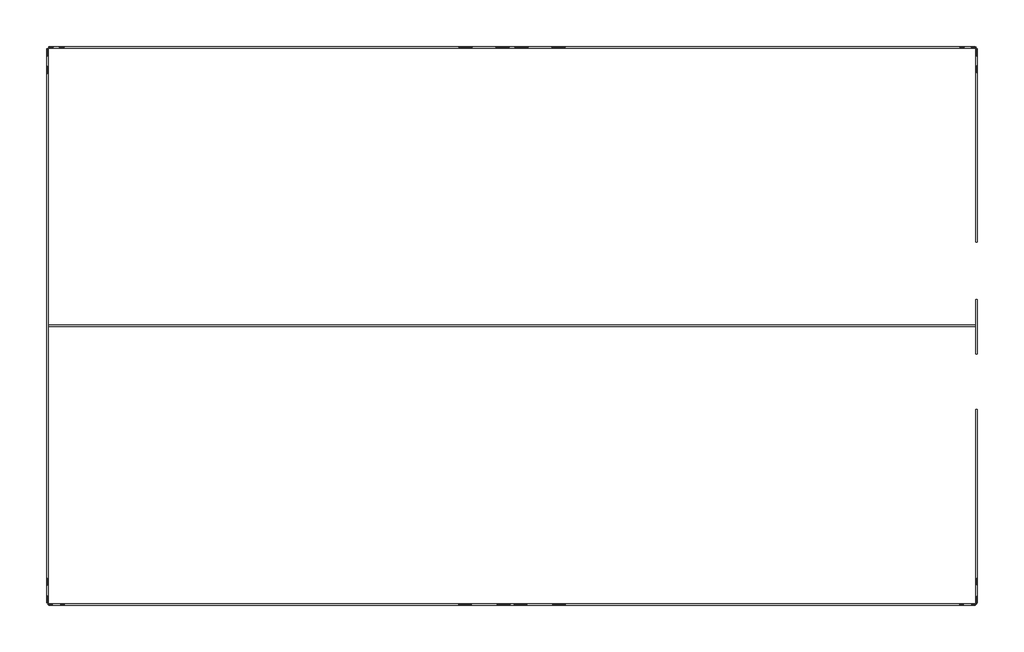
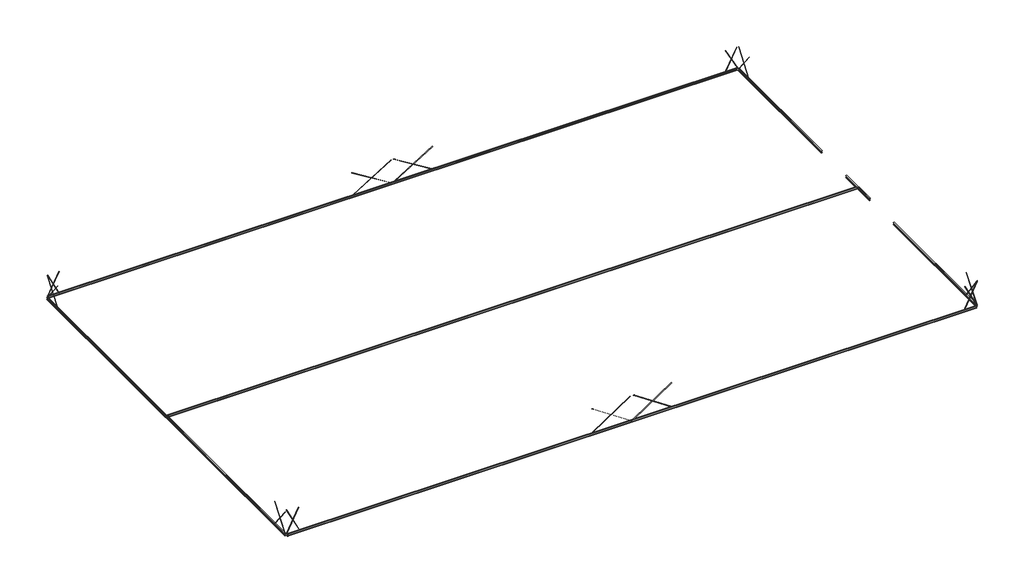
# One storey: 24 members, 7 beams.
"""IFC4 building model written with IfcOpenShell, lengths in millimetres."""

from ifc_helpers import new_model, si_unit, origin, place, context, project, spatial, transform, mapped, element, save
from components import ub_universal_beams_ub305x165x40_84cf911b, ub_universal_beams_ub305x165x40_7039ebc4, ub_universal_beams_ub305x165x40_08eb0503, ub_universal_beams_ub305x165x40_9586376d, ub_universal_beams_ub305x165x40_91c2d510, round_bars_rb_1_1_2_3e8e4eeb, round_bars_rb_1_1_2_b532fa77, round_bars_rb_1_1_2_7acd3910, round_bars_rb_1_1_2_7c4ca48d, round_bars_rb_1_1_2_46b0ee6e, round_bars_rb_1_1_2_e800a8af, round_bars_rb_1_1_2_284c45c0, round_bars_rb_1_1_2_24e4f47d, round_bars_rb_1_1_2_b3cfa4dc, round_bars_rb_1_1_2_4a88bb6f, round_bars_rb_1_1_2_4f811392, round_bars_rb_1_1_2_aa762c7a, round_bars_rb_1_1_2_8d5aa2d9, round_bars_rb_1_1_2_91e0801e

model = new_model("IFC4")

# Units and contexts
model_context = context("Model", 3, world=origin())
ifc_project = project(units=[si_unit("LENGTHUNIT", "METRE", prefix="MILLI")], contexts=[model_context])

# Site, building, storey
site = spatial("IfcSite", under=ifc_project)
building = spatial("IfcBuilding", under=site)
storey = spatial("IfcBuildingStorey", under=building, Name="Kota 3", Elevation=2000.0)

# Beams
placement = place(None, origin())
ub_universal_beams_ub305x165x40_shape = ub_universal_beams_ub305x165x40_84cf911b(model_context)
element("IfcBeam", 1, ObjectType="UB-Universal Beams : UB305x165x40", at=placement, inside=storey, context=model_context, shape_type="MappedRepresentation", body=[
    mapped(ub_universal_beams_ub305x165x40_shape, transform((41063.6750595, 7033.1828349, 2151.7), x_axis=(1.0, 0.0, 0.0), y_axis=(0.0, 1.0, 0.0), z_axis=(0.0, 0.0, 1.0))),
])
element("IfcBeam", 2, ObjectType="UB-Universal Beams : UB305x165x40", at=placement, inside=storey, context=model_context, shape_type="MappedRepresentation", body=[
    mapped(ub_universal_beams_ub305x165x40_shape, transform((41063.6750595, -52966.8171651, 2151.7), x_axis=(-1.0, 0.0, 0.0), y_axis=(0.0, -1.0, 0.0), z_axis=(0.0, 0.0, 1.0))),
])
element("IfcBeam", 3, ObjectType="UB-Universal Beams : UB305x165x40", at=placement, inside=storey, context=model_context, shape_type="MappedRepresentation", body=[
    mapped(ub_universal_beams_ub305x165x40_shape, transform((41063.6750595, -22966.8171651, 2151.7), x_axis=(1.0, 0.0, 0.0), y_axis=(0.0, 1.0, 0.0), z_axis=(0.0, 0.0, 1.0))),
])
ub_universal_beams_ub305x165x40_2_shape = ub_universal_beams_ub305x165x40_7039ebc4(model_context)
element("IfcBeam", 4, ObjectType="UB-Universal Beams : UB305x165x40", at=placement, inside=storey, context=model_context, shape_type="MappedRepresentation", body=[
    mapped(ub_universal_beams_ub305x165x40_2_shape, transform((-8936.3249405, -22966.8171651, 2151.7), x_axis=(0.0, 1.0, 0.0), y_axis=(-1.0, 0.0, 0.0), z_axis=(0.0, 0.0, 1.0))),
])
ub_universal_beams_ub305x165x40_3_shape = ub_universal_beams_ub305x165x40_08eb0503(model_context)
element("IfcBeam", 5, ObjectType="UB-Universal Beams : UB305x165x40", at=placement, inside=storey, context=model_context, shape_type="MappedRepresentation", body=[
    mapped(ub_universal_beams_ub305x165x40_3_shape, transform((91063.6750595, -40929.5216667, 2151.7), x_axis=(0.0, -1.0, 0.0), y_axis=(1.0, 0.0, 0.0), z_axis=(0.0, 0.0, 1.0))),
])
ub_universal_beams_ub305x165x40_4_shape = ub_universal_beams_ub305x165x40_9586376d(model_context)
element("IfcBeam", 6, ObjectType="UB-Universal Beams : UB305x165x40", at=placement, inside=storey, context=model_context, shape_type="MappedRepresentation", body=[
    mapped(ub_universal_beams_ub305x165x40_4_shape, transform((91063.6750595, -23037.6509442, 2151.7), x_axis=(0.0, -1.0, 0.0), y_axis=(1.0, 0.0, 0.0), z_axis=(0.0, 0.0, 1.0))),
])
ub_universal_beams_ub305x165x40_5_shape = ub_universal_beams_ub305x165x40_91c2d510(model_context)
element("IfcBeam", 7, ObjectType="UB-Universal Beams : UB305x165x40", at=placement, inside=storey, context=model_context, shape_type="MappedRepresentation", body=[
    mapped(ub_universal_beams_ub305x165x40_5_shape, transform((91063.6750595, -5074.9464426, 2151.7), x_axis=(0.0, -1.0, 0.0), y_axis=(1.0, 0.0, 0.0), z_axis=(0.0, 0.0, 1.0))),
])

# Members
round_bars_rb_1_1_2_shape = round_bars_rb_1_1_2_3e8e4eeb(model_context)
element("IfcMember", 8, ObjectType="Round Bars : RB 1 1/2", at=placement, inside=storey, context=model_context, shape_type="MappedRepresentation", body=[
    mapped(round_bars_rb_1_1_2_shape, transform((-8936.3249405, 5533.1828349, 3919.9124483), x_axis=(0.0, -0.6156614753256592, 0.7880107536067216), y_axis=(1.0000000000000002, 0.0, 0.0), z_axis=(0.0, 0.7880107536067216, 0.6156614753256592))),
])
element("IfcMember", 9, ObjectType="Round Bars : RB 1 1/2", at=placement, inside=storey, context=model_context, shape_type="MappedRepresentation", body=[
    mapped(round_bars_rb_1_1_2_shape, transform((-8936.3249405, -51466.8171651, 3919.9124483), x_axis=(0.0, -0.6156614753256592, 0.7880107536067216), y_axis=(1.0000000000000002, 0.0, 0.0), z_axis=(0.0, 0.7880107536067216, 0.6156614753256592))),
])
round_bars_rb_1_1_2_2_shape = round_bars_rb_1_1_2_b532fa77(model_context)
element("IfcMember", 10, ObjectType="Round Bars : RB 1 1/2", at=placement, inside=storey, context=model_context, shape_type="MappedRepresentation", body=[
    mapped(round_bars_rb_1_1_2_2_shape, transform((-8936.3249405, 5533.1828349, 3924.15), x_axis=(0.0, 0.6148184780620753, 0.7886686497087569), y_axis=(-1.0000000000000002, 0.0, 0.0), z_axis=(0.0, -0.7886686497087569, 0.6148184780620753))),
])
element("IfcMember", 11, ObjectType="Round Bars : RB 1 1/2", at=placement, inside=storey, context=model_context, shape_type="MappedRepresentation", body=[
    mapped(round_bars_rb_1_1_2_2_shape, transform((-8936.3249405, -51466.8171651, 3924.15), x_axis=(0.0, 0.6148184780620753, 0.7886686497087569), y_axis=(-1.0000000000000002, 0.0, 0.0), z_axis=(0.0, -0.7886686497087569, 0.6148184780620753))),
])
element("IfcMember", 12, ObjectType="Round Bars : RB 1 1/2", at=placement, inside=storey, context=model_context, shape_type="MappedRepresentation", body=[
    mapped(round_bars_rb_1_1_2_2_shape, transform((91063.6750595, 5533.1828349, 3924.15), x_axis=(0.0, -0.6148184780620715, 0.7886686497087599), y_axis=(1.0000000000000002, 0.0, 0.0), z_axis=(0.0, 0.7886686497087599, 0.6148184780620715))),
])
round_bars_rb_1_1_2_3_shape = round_bars_rb_1_1_2_7acd3910(model_context)
element("IfcMember", 13, ObjectType="Round Bars : RB 1 1/2", at=placement, inside=storey, context=model_context, shape_type="MappedRepresentation", body=[
    mapped(round_bars_rb_1_1_2_3_shape, transform((91063.6750595, 5533.1828349, 3844.0624483), x_axis=(0.0, 0.6008144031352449, 0.7993885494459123), y_axis=(-1.0000000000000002, 0.0, 0.0), z_axis=(0.0, -0.7993885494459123, 0.6008144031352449))),
])
round_bars_rb_1_1_2_4_shape = round_bars_rb_1_1_2_7c4ca48d(model_context)
element("IfcMember", 14, ObjectType="Round Bars : RB 1 1/2", at=placement, inside=storey, context=model_context, shape_type="MappedRepresentation", body=[
    mapped(round_bars_rb_1_1_2_4_shape, transform((-7936.3249405, 7033.1828349, 3848.3), x_axis=(-0.44721359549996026, 0.0, 0.894427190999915), y_axis=(0.0, -1.0000000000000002, 0.0), z_axis=(0.894427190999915, 0.0, 0.44721359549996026))),
])
round_bars_rb_1_1_2_5_shape = round_bars_rb_1_1_2_46b0ee6e(model_context)
element("IfcMember", 15, ObjectType="Round Bars : RB 1 1/2", at=placement, inside=storey, context=model_context, shape_type="MappedRepresentation", body=[
    mapped(round_bars_rb_1_1_2_5_shape, transform((90063.6750595, 7033.1828349, 3924.15), x_axis=(0.46115017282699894, 0.0, 0.8873221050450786), y_axis=(0.0, 1.0000000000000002, 0.0), z_axis=(-0.8873221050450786, 0.0, 0.46115017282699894))),
])
element("IfcMember", 16, ObjectType="Round Bars : RB 1 1/2", at=placement, inside=storey, context=model_context, shape_type="MappedRepresentation", body=[
    mapped(round_bars_rb_1_1_2_5_shape, transform((-7936.3249405, 7033.1828349, 3924.15), x_axis=(0.46115017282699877, 0.0, 0.8873221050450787), y_axis=(0.0, 1.0000000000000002, 0.0), z_axis=(-0.8873221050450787, 0.0, 0.46115017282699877))),
])
round_bars_rb_1_1_2_6_shape = round_bars_rb_1_1_2_e800a8af(model_context)
element("IfcMember", 17, ObjectType="Round Bars : RB 1 1/2", at=placement, inside=storey, context=model_context, shape_type="MappedRepresentation", body=[
    mapped(round_bars_rb_1_1_2_6_shape, transform((91063.6750595, -51466.8171651, 3995.7624483), x_axis=(0.0, 0.6310231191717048, 0.7757640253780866), y_axis=(-1.0, 0.0, 0.0), z_axis=(0.0, -0.7757640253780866, 0.6310231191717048))),
])
round_bars_rb_1_1_2_7_shape = round_bars_rb_1_1_2_284c45c0(model_context)
element("IfcMember", 18, ObjectType="Round Bars : RB 1 1/2", at=placement, inside=storey, context=model_context, shape_type="MappedRepresentation", body=[
    mapped(round_bars_rb_1_1_2_7_shape, transform((90063.6750595, 7033.1828349, 4000.0), x_axis=(-0.4758553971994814, 0.0, 0.8795235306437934), y_axis=(0.0, -1.0, 0.0), z_axis=(0.8795235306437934, 0.0, 0.4758553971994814))),
])
round_bars_rb_1_1_2_8_shape = round_bars_rb_1_1_2_24e4f47d(model_context)
element("IfcMember", 19, ObjectType="Round Bars : RB 1 1/2", at=placement, inside=storey, context=model_context, shape_type="MappedRepresentation", body=[
    mapped(round_bars_rb_1_1_2_8_shape, transform((44063.6750595, 7033.1828349, 3984.8031015), x_axis=(0.8533109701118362, 0.0, 0.5214023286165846), y_axis=(0.0, 1.0, 0.0), z_axis=(-0.5214023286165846, 0.0, 0.8533109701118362))),
])
round_bars_rb_1_1_2_9_shape = round_bars_rb_1_1_2_b3cfa4dc(model_context)
element("IfcMember", 20, ObjectType="Round Bars : RB 1 1/2", at=placement, inside=storey, context=model_context, shape_type="MappedRepresentation", body=[
    mapped(round_bars_rb_1_1_2_9_shape, transform((44063.6750595, 7033.1828349, 4000.0), x_axis=(-0.8513863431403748, 0.0, 0.5245391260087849), y_axis=(0.0, -1.0, 0.0), z_axis=(0.5245391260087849, 0.0, 0.8513863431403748))),
])
element("IfcMember", 21, ObjectType="Round Bars : RB 1 1/2", at=placement, inside=storey, context=model_context, shape_type="MappedRepresentation", body=[
    mapped(round_bars_rb_1_1_2_9_shape, transform((38063.6750595, 7033.1828349, 4000.0), x_axis=(-0.8513863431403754, 0.0, 0.5245391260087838), y_axis=(0.0, -1.0, 0.0), z_axis=(0.5245391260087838, 0.0, 0.8513863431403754))),
])
element("IfcMember", 22, ObjectType="Round Bars : RB 1 1/2", at=placement, inside=storey, context=model_context, shape_type="MappedRepresentation", body=[
    mapped(round_bars_rb_1_1_2_9_shape, transform((38063.6750595, 7033.1828349, 4000.0), x_axis=(0.8513863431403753, 0.0, 0.524539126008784), y_axis=(0.0, 1.0, 0.0), z_axis=(-0.524539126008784, 0.0, 0.8513863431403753))),
])
round_bars_rb_1_1_2_10_shape = round_bars_rb_1_1_2_4a88bb6f(model_context)
element("IfcMember", 23, ObjectType="Round Bars : RB 1 1/2", at=placement, inside=storey, context=model_context, shape_type="MappedRepresentation", body=[
    mapped(round_bars_rb_1_1_2_10_shape, transform((91063.6750595, -51466.8171651, 4075.85), x_axis=(0.0, -0.5856894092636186, 0.8105355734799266), y_axis=(1.0, 0.0, 0.0), z_axis=(0.0, 0.8105355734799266, 0.5856894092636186))),
])
round_bars_rb_1_1_2_11_shape = round_bars_rb_1_1_2_4f811392(model_context)
element("IfcMember", 24, ObjectType="Round Bars : RB 1 1/2", at=placement, inside=storey, context=model_context, shape_type="MappedRepresentation", body=[
    mapped(round_bars_rb_1_1_2_11_shape, transform((-7936.3249405, -52966.8171651, 4151.7), x_axis=(0.44721359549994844, 0.0, 0.8944271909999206), y_axis=(0.0, 1.0, 0.0), z_axis=(-0.8944271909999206, 0.0, 0.44721359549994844))),
])
element("IfcMember", 25, ObjectType="Round Bars : RB 1 1/2", at=placement, inside=storey, context=model_context, shape_type="MappedRepresentation", body=[
    mapped(round_bars_rb_1_1_2_11_shape, transform((90063.6750595, -52966.8171651, 4151.7), x_axis=(-0.4472135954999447, 0.0, 0.8944271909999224), y_axis=(0.0, -1.0, 0.0), z_axis=(0.8944271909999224, 0.0, 0.4472135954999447))),
])
round_bars_rb_1_1_2_12_shape = round_bars_rb_1_1_2_aa762c7a(model_context)
element("IfcMember", 26, ObjectType="Round Bars : RB 1 1/2", at=placement, inside=storey, context=model_context, shape_type="MappedRepresentation", body=[
    mapped(round_bars_rb_1_1_2_12_shape, transform((-7936.3249405, -52966.8171651, 4151.7), x_axis=(-0.447213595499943, 0.0, 0.8944271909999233), y_axis=(0.0, -1.0, 0.0), z_axis=(0.8944271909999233, 0.0, 0.447213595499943))),
])
element("IfcMember", 27, ObjectType="Round Bars : RB 1 1/2", at=placement, inside=storey, context=model_context, shape_type="MappedRepresentation", body=[
    mapped(round_bars_rb_1_1_2_12_shape, transform((90063.6750595, -52966.8171651, 4151.7), x_axis=(0.44721359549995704, 0.0, 0.8944271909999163), y_axis=(0.0, 1.0, 0.0), z_axis=(-0.8944271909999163, 0.0, 0.44721359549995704))),
])
round_bars_rb_1_1_2_13_shape = round_bars_rb_1_1_2_8d5aa2d9(model_context)
element("IfcMember", 28, ObjectType="Round Bars : RB 1 1/2", at=placement, inside=storey, context=model_context, shape_type="MappedRepresentation", body=[
    mapped(round_bars_rb_1_1_2_13_shape, transform((38063.6750595, -52966.8171651, 4151.7), x_axis=(0.8320502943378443, 0.0, 0.5547001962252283), y_axis=(0.0, 1.0, 0.0), z_axis=(-0.5547001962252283, 0.0, 0.8320502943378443))),
])
element("IfcMember", 29, ObjectType="Round Bars : RB 1 1/2", at=placement, inside=storey, context=model_context, shape_type="MappedRepresentation", body=[
    mapped(round_bars_rb_1_1_2_13_shape, transform((44063.6750595, -52966.8171651, 4151.7), x_axis=(0.8320502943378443, 0.0, 0.5547001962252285), y_axis=(0.0, 1.0, 0.0), z_axis=(-0.5547001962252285, 0.0, 0.8320502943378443))),
])
element("IfcMember", 30, ObjectType="Round Bars : RB 1 1/2", at=placement, inside=storey, context=model_context, shape_type="MappedRepresentation", body=[
    mapped(round_bars_rb_1_1_2_13_shape, transform((44063.6750595, -52966.8171651, 4151.7), x_axis=(-0.8320502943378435, 0.0, 0.5547001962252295), y_axis=(0.0, -1.0, 0.0), z_axis=(0.5547001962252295, 0.0, 0.8320502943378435))),
])
round_bars_rb_1_1_2_14_shape = round_bars_rb_1_1_2_91e0801e(model_context)
element("IfcMember", 31, ObjectType="Round Bars : RB 1 1/2", at=placement, inside=storey, context=model_context, shape_type="MappedRepresentation", body=[
    mapped(round_bars_rb_1_1_2_14_shape, transform((38063.6750595, -52966.8171651, 4151.7), x_axis=(-0.8320502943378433, 0.0, 0.5547001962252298), y_axis=(0.0, -1.0, 0.0), z_axis=(0.5547001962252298, 0.0, 0.8320502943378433))),
])

save(model, "model.ifc")
